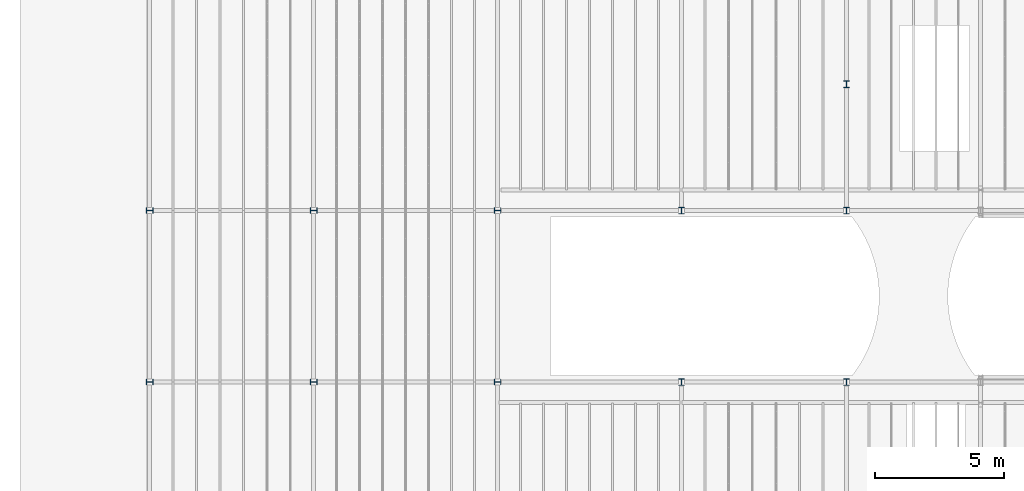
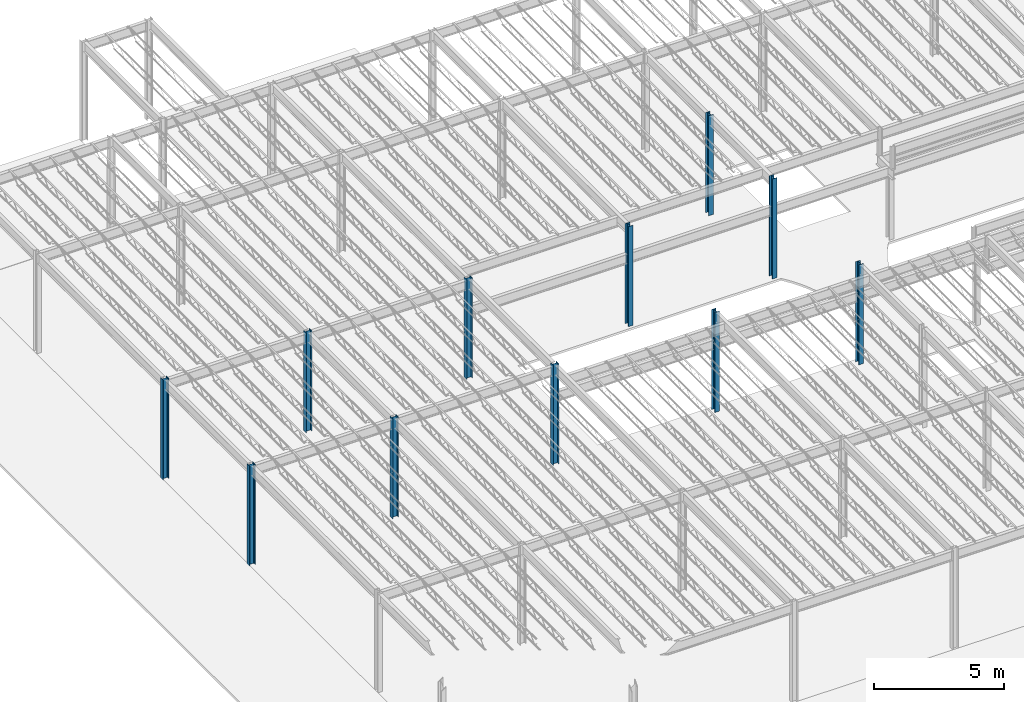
# One storey, part 2 of 119: 11 columns.
"""IFC2X3 building model written with IfcOpenShell, lengths in metres."""

from ifc_helpers import new_model, entity, si_unit, converted_unit, frame, frame_2d, origin, place, context, project, spatial, polyline, circle_curve, parameter, trimmed, segment, composite_curve, outline, extrude, source, transform, mapped, material, type_object, type_shapes, element, save


model = new_model("IFC2X3")

# Units and contexts
model_context = context("Model", 3, precision=1e-09, world=origin())
plan_context = context("Plan", 3, precision=1e-09, world=origin())
ifc_project = project(units=[si_unit("LENGTHUNIT", "METRE"), si_unit("AREAUNIT", "SQUARE_METRE"), si_unit("VOLUMEUNIT", "CUBIC_METRE"), converted_unit("PLANEANGLEUNIT", "DEGREE", entity("IfcRatioMeasure", 0.01745329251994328), si_unit("PLANEANGLEUNIT", "RADIAN"), dimensions=[0, 0, 0, 0, 0, 0, 0]), si_unit("TIMEUNIT", "SECOND")], contexts=[model_context, plan_context])

# Site, building, storey
site_placement = place(None, origin())
site = spatial("IfcSite", under=ifc_project, at=site_placement, Name="Default", CompositionType="ELEMENT")
building_placement = place(site_placement, origin())
building = spatial("IfcBuilding", under=site, at=building_placement, CompositionType="ELEMENT")
storey_placement = place(building_placement, frame((0.0, 0.0, 4.570000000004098)))
storey = spatial("IfcBuildingStorey", under=building, at=storey_placement, Name="Second Floor", CompositionType="ELEMENT", Elevation=4.570000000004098)

# Columns
ifc_material = material(Name="Metal - Steel - 345 MPa")
column_type_1 = type_object("IfcColumnType", Name="W250X67", PredefinedType="COLUMN")
shared_shape_1 = source(origin(), model_context, "Body", "SweptSolid", [
    extrude(outline(composite_curve([segment(polyline([(-0.102, -0.1285), (0.102, -0.1285)]), True, "CONTINUOUS"), segment(polyline([(0.102, -0.1285), (0.102, -0.1128)]), True, "CONTINUOUS"), segment(polyline([(0.102, -0.1128), (0.02174999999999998, -0.1128)]), True, "CONTINUOUS"), segment(trimmed(circle_curve(frame_2d((0.02174999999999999, -0.09549999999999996), x_axis=(-1.0, 0.0)), 0.0173), [parameter(4.071109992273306e-13)], [parameter(90.00000000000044)], True, "PARAMETER"), False, "CONTINUOUS"), segment(polyline([(0.004449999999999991, -0.09549999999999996), (0.004449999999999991, 0.09549999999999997)]), True, "CONTINUOUS"), segment(trimmed(circle_curve(frame_2d((0.02174999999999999, 0.09549999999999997), x_axis=(-1.0, 0.0)), 0.0173), [parameter(270.0000000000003)], [parameter(3.562221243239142e-13)], True, "PARAMETER"), False, "CONTINUOUS"), segment(polyline([(0.02174999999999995, 0.1128), (0.102, 0.1128)]), True, "CONTINUOUS"), segment(polyline([(0.102, 0.1128), (0.102, 0.1285)]), True, "CONTINUOUS"), segment(polyline([(0.102, 0.1285), (-0.102, 0.1285)]), True, "CONTINUOUS"), segment(polyline([(-0.102, 0.1285), (-0.102, 0.1128)]), True, "CONTINUOUS"), segment(polyline([(-0.102, 0.1128), (-0.02174999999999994, 0.1128)]), True, "CONTINUOUS"), segment(trimmed(circle_curve(frame_2d((-0.02175000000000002, 0.09549999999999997), x_axis=(-1.0, 0.0)), 0.0173), [parameter(179.9999999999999)], [parameter(269.9999999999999)], True, "PARAMETER"), False, "CONTINUOUS"), segment(polyline([(-0.004450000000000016, 0.09550000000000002), (-0.004450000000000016, -0.09549999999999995)]), True, "CONTINUOUS"), segment(trimmed(circle_curve(frame_2d((-0.02175000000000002, -0.09549999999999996), x_axis=(-1.0, 0.0)), 0.0173), [parameter(90.00000000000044)], [parameter(180.0000000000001)], True, "PARAMETER"), False, "CONTINUOUS"), segment(polyline([(-0.02175000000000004, -0.1128), (-0.102, -0.1128)]), True, "CONTINUOUS"), segment(polyline([(-0.102, -0.1128), (-0.102, -0.1285)]), True, "CONTINUOUS")], self_intersect=False)), frame((0.0, 0.0, 4.570000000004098), z_axis=(0.0, 0.0, 1.0), x_axis=(-1.0, 0.0, 0.0)), (0.0, 0.0, 1.0), 4.679999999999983),
])
type_shapes(column_type_1, [shared_shape_1])
for number, where, z_axis, x_axis in (
    (1, (-20.05999999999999, 39.89537920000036, -4.570000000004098), (0.0, 0.0, 1.0), (-1.0, 0.0, 0.0)),
    (2, (-40.66000000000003, 28.3800000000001, -4.570000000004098), (0.0, 0.0, 1.0), (0.0, -1.0, 0.0)),
    (3, (-40.66000000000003, 35.01000000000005, -4.570000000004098), (0.0, 0.0, 1.0), (0.0, -1.0, 0.0)),
    (4, (-20.06, 35.00999999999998, -4.570000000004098), (0.0, 0.0, 1.0), (-1.0, 0.0, 0.0)),
    (5, (-33.55000000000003, 35.01000000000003, -4.570000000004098), (0.0, 0.0, 1.0), (0.0, -1.0, 0.0)),
    (6, (-47.0, 35.01000000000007, -4.570000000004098), (0.0, 0.0, 1.0), (0.0, 1.0, 0.0)),
    (7, (-26.44000000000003, 35.01000000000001, -4.570000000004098), (0.0, 0.0, 1.0), (-1.0, 0.0, 0.0)),
    (8, (-47.0, 28.38000000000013, -4.570000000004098), (0.0, 0.0, 1.0), (0.0, 1.0, 0.0)),
    (9, (-33.55000000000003, 28.38000000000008, -4.570000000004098), (0.0, 0.0, 1.0), (0.0, -1.0, 0.0)),
):
    element("IfcColumn", number, at=place(storey_placement, frame(where, z_axis=z_axis, x_axis=x_axis)), inside=storey, type_object=column_type_1, material=ifc_material, Name="M_W-Wide Flange-Column:W250X67:W250X67", ObjectType="W250X67", context=model_context, shape_type="MappedRepresentation", body=[
        mapped(shared_shape_1, transform((0.0, 0.0, 0.0), scale=1.0)),
    ])
column_type_2 = type_object("IfcColumnType", Name="W250X67", PredefinedType="COLUMN")
shared_shape_2 = source(origin(), model_context, "Body", "SweptSolid", [
    extrude(outline(composite_curve([segment(polyline([(-0.1285, -0.102), (-0.1128, -0.102)]), True, "CONTINUOUS"), segment(polyline([(-0.1128, -0.102), (-0.1128, -0.02175000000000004)]), True, "CONTINUOUS"), segment(trimmed(circle_curve(frame_2d((-0.09549999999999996, -0.02175000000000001), x_axis=(0.0, -1.0)), 0.0173), [parameter(179.9999999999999)], [parameter(269.9999999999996)], True, "PARAMETER"), False, "CONTINUOUS"), segment(polyline([(-0.09549999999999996, -0.00445000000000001), (0.0955, -0.00445000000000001)]), True, "CONTINUOUS"), segment(trimmed(circle_curve(frame_2d((0.09549999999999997, -0.02175000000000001), x_axis=(0.0, -1.0)), 0.0173), [parameter(90.00000000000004)], [parameter(180.0000000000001)], True, "PARAMETER"), False, "CONTINUOUS"), segment(polyline([(0.1128, -0.02174999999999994), (0.1128, -0.102)]), True, "CONTINUOUS"), segment(polyline([(0.1128, -0.102), (0.1285, -0.102)]), True, "CONTINUOUS"), segment(polyline([(0.1285, -0.102), (0.1285, 0.102)]), True, "CONTINUOUS"), segment(polyline([(0.1285, 0.102), (0.1128, 0.102)]), True, "CONTINUOUS"), segment(polyline([(0.1128, 0.102), (0.1128, 0.02174999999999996)]), True, "CONTINUOUS"), segment(trimmed(circle_curve(frame_2d((0.09549999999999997, 0.02175), x_axis=(0.0, -1.0)), 0.0173), [parameter(359.9999999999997)], [parameter(89.99999999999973)], True, "PARAMETER"), False, "CONTINUOUS"), segment(polyline([(0.09549999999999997, 0.004449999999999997), (-0.09549999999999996, 0.004449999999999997)]), True, "CONTINUOUS"), segment(trimmed(circle_curve(frame_2d((-0.09549999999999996, 0.02175), x_axis=(0.0, -1.0)), 0.0173), [parameter(269.9999999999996)], [parameter(359.9999999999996)], True, "PARAMETER"), False, "CONTINUOUS"), segment(polyline([(-0.1128, 0.02174999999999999), (-0.1128, 0.102)]), True, "CONTINUOUS"), segment(polyline([(-0.1128, 0.102), (-0.1285, 0.102)]), True, "CONTINUOUS"), segment(polyline([(-0.1285, 0.102), (-0.1285, -0.102)]), True, "CONTINUOUS")], self_intersect=False)), frame((0.0, 0.0, 4.570000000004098), z_axis=(0.0, 0.0, 1.0), x_axis=(0.0, 1.0, 0.0)), (0.0, 0.0, 1.0), 4.679999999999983),
])
type_shapes(column_type_2, [shared_shape_2])
for number, where, z_axis, x_axis in (
    (10, (-26.44000000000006, 28.38000000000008, -4.570000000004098), (0.0, 0.0, 1.0), (-1.0, 0.0, 0.0)),
    (11, (-20.06000000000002, 28.38000000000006, -4.570000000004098), (0.0, 0.0, 1.0), (-1.0, 0.0, 0.0)),
):
    element("IfcColumn", number, at=place(storey_placement, frame(where, z_axis=z_axis, x_axis=x_axis)), inside=storey, type_object=column_type_2, material=ifc_material, Name="M_W-Wide Flange-Column:W250X67:W250X67", ObjectType="W250X67", context=model_context, shape_type="MappedRepresentation", body=[
        mapped(shared_shape_2, transform((0.0, 0.0, 0.0), scale=1.0)),
    ])

save(model, "model.ifc")
